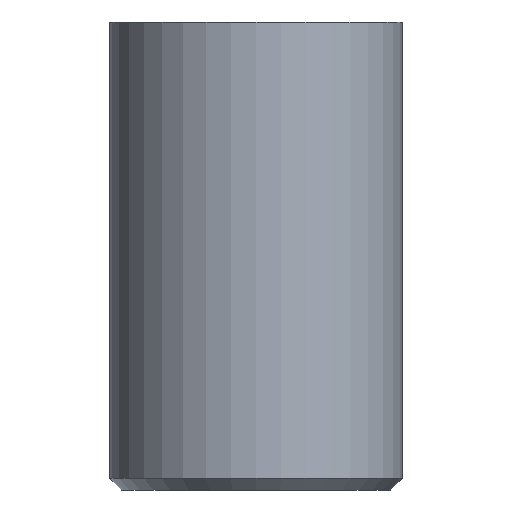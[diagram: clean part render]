
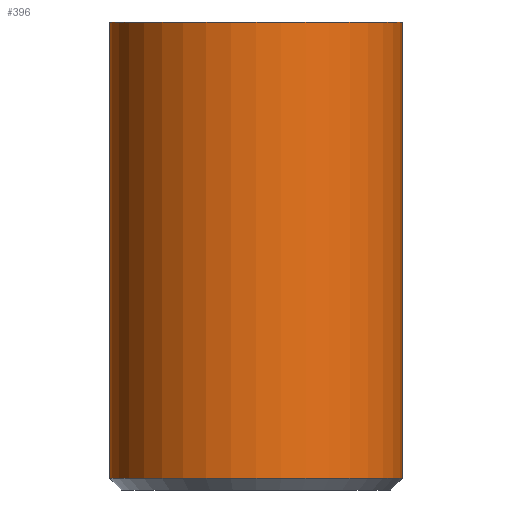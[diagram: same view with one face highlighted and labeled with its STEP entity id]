
A CAD part, front view. The second image highlights one B-rep face of the part: STEP entity #396.
In plain terms, the highlighted cylindrical face has radius 2.5 mm (diameter 5 mm), a partial arc.
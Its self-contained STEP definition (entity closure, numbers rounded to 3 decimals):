
#12 = DIRECTION ( 'NONE',  ( 0., 0., 1. ) ) ;
#30 = DIRECTION ( 'NONE',  ( 1., 0., 0. ) ) ;
#72 = CARTESIAN_POINT ( 'NONE',  ( 0., 0., 0. ) ) ;
#80 = DIRECTION ( 'NONE',  ( 0., 0., 1. ) ) ;
#88 = EDGE_CURVE ( 'NONE', #512, #346, #365, .T. ) ;
#104 = VERTEX_POINT ( 'NONE', #201 ) ;
#124 = EDGE_CURVE ( 'NONE', #104, #783, #644, .T. ) ;
#172 = CARTESIAN_POINT ( 'NONE',  ( -2.5, 0., 0. ) ) ;
#200 = DIRECTION ( 'NONE',  ( 0., 0., 1. ) ) ;
#201 = CARTESIAN_POINT ( 'NONE',  ( 2.5, 0., -7.8 ) ) ;
#236 = AXIS2_PLACEMENT_3D ( 'NONE', #248, #246, #240 ) ;
#240 = DIRECTION ( 'NONE',  ( 1., 0., 0. ) ) ;
#246 = DIRECTION ( 'NONE',  ( 0., 0., 1. ) ) ;
#248 = CARTESIAN_POINT ( 'NONE',  ( 0., 0., -7.8 ) ) ;
#254 = ORIENTED_EDGE ( 'NONE', *, *, #258, .T. ) ;
#258 = EDGE_CURVE ( 'NONE', #512, #104, #620, .T. ) ;
#272 = EDGE_CURVE ( 'NONE', #346, #783, #570, .T. ) ;
#308 = AXIS2_PLACEMENT_3D ( 'NONE', #72, #12, #755 ) ;
#346 = VERTEX_POINT ( 'NONE', #172 ) ;
#365 = LINE ( 'NONE', #616, #579 ) ;
#378 = FACE_OUTER_BOUND ( 'NONE', #432, .T. ) ;
#396 = ADVANCED_FACE ( 'NONE', ( #378 ), #599, .T. ) ;
#397 = ORIENTED_EDGE ( 'NONE', *, *, #124, .T. ) ;
#403 = ORIENTED_EDGE ( 'NONE', *, *, #88, .F. ) ;
#416 = ORIENTED_EDGE ( 'NONE', *, *, #272, .F. ) ;
#431 = CARTESIAN_POINT ( 'NONE',  ( 2.5, 0., 0. ) ) ;
#432 = EDGE_LOOP ( 'NONE', ( #403, #254, #397, #416 ) ) ;
#512 = VERTEX_POINT ( 'NONE', #704 ) ;
#569 = DIRECTION ( 'NONE',  ( 0., 0., 1. ) ) ;
#570 = CIRCLE ( 'NONE', #308, 2.5 ) ;
#579 = VECTOR ( 'NONE', #569, 1000. ) ;
#583 = AXIS2_PLACEMENT_3D ( 'NONE', #725, #80, #30 ) ;
#599 = CYLINDRICAL_SURFACE ( 'NONE', #583, 2.5 ) ;
#616 = CARTESIAN_POINT ( 'NONE',  ( -2.5, 0., 1. ) ) ;
#620 = CIRCLE ( 'NONE', #236, 2.5 ) ;
#644 = LINE ( 'NONE', #747, #791 ) ;
#704 = CARTESIAN_POINT ( 'NONE',  ( -2.5, 0., -7.8 ) ) ;
#725 = CARTESIAN_POINT ( 'NONE',  ( 0., 0., 1. ) ) ;
#747 = CARTESIAN_POINT ( 'NONE',  ( 2.5, 0., 1. ) ) ;
#755 = DIRECTION ( 'NONE',  ( 1., 0., 0. ) ) ;
#783 = VERTEX_POINT ( 'NONE', #431 ) ;
#791 = VECTOR ( 'NONE', #200, 1000. ) ;
